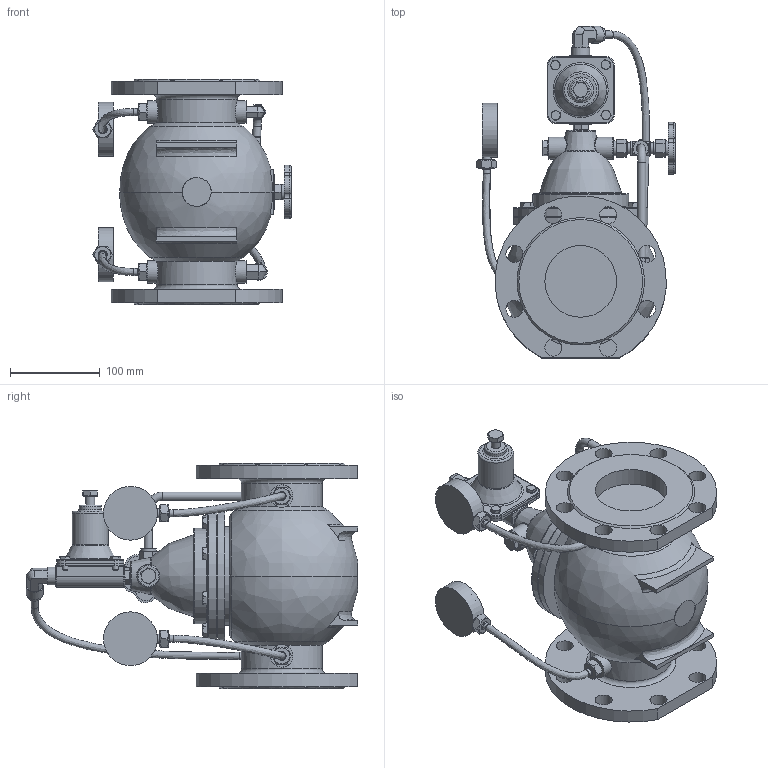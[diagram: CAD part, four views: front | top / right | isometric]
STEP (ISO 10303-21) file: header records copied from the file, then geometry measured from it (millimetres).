
FILE_DESCRIPTION(('STEP AP242'), '1');
FILE_NAME('PVA1-1313RR-F Ìåìáðàííûé ðåãóëÿòîð äàâëåíèÿ «ïîñëå ñåáÿ» ñ ïèëîòíûì óïðàâëåíèåì DN.ru Äó80 Ðó16', '', ('UNSPECIFIED'), ('UNSPECIFIED'), 'C3D Converter', 'C3D Toolkit', '');
FILE_SCHEMA(('AP242_MANAGED_MODEL_BASED_3D_ENGINEERING_MIM_LF { 1 0 10303 442 1 1 4 }'));
Length unit declared in the file: millimetre
Products named in the file (1): PVA1-1313RR-F
Bounding box: 221.17 x 370 x 251 mm (x, y, z)
Volume: 4721949.5 mm3; surface area: 419151.4 mm2
Topology: 1 solids, 4 shells, 1450 faces, 3542 edges, 2267 vertices
Faces by surface type: plane 856, cylinder 200, bspline 186, cone 139, torus 40, extrusion 29
Full cylindrical faces by diameter (mm): 2.03 x2, 3 x2, 6 x8, 7.137 x2, 8 x14, 9 x12, 9.525 x3, 10 x7, 10.363 x2, 12.573 x3, 12.954 x1, 13 x8, 14.254 x3, 14.287 x1, 16 x3, 16.016 x1, 16.192 x2, 16.967 x3, 19 x17, 19.05 x2, 19.885 x1, 23.884 x1, 25 x8, 32.233 x1, 40 x1, 56.933 x2, 57.199 x1, 60 x2, 80 x2, 90 x2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
Entity records: 91172 total; most frequent: CARTESIAN_POINT 53337, ORIENTED_EDGE 6734, DIRECTION 5818, EDGE_CURVE 3367, VERTEX_POINT 2263, AXIS2_PLACEMENT_3D 1972, VECTOR 1874, EDGE_LOOP 1850
